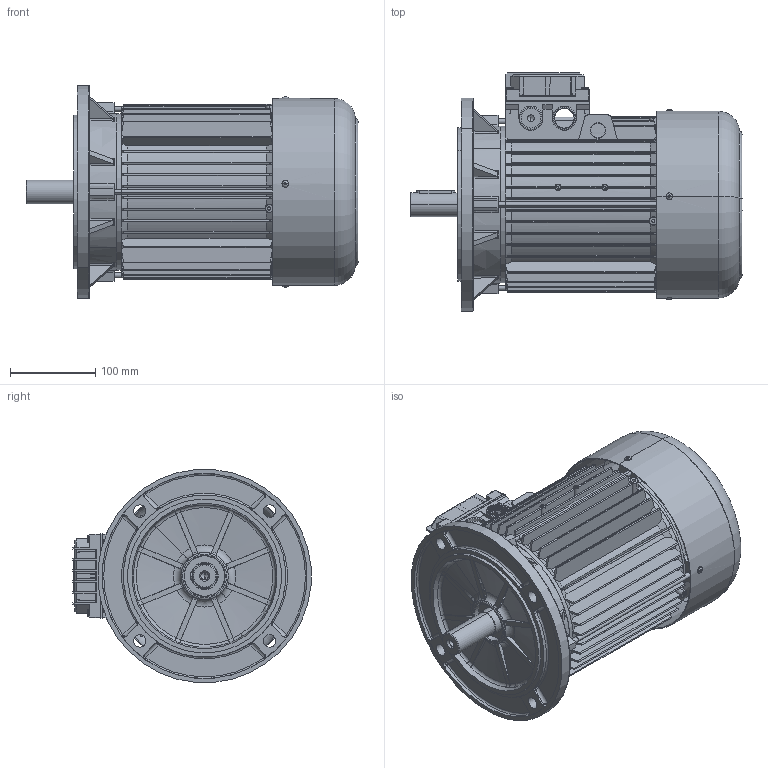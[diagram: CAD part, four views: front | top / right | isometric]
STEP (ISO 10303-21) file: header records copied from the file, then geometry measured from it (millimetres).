
FILE_DESCRIPTION (( 'STEP AP214' ), '1' );
FILE_NAME ('M24HB0010.STEP', '2018-12-27T10:02:52', ( '' ), ( '' ), 'SwSTEP 2.0', 'SolidWorks 2018', '' );
FILE_SCHEMA (( 'AUTOMOTIVE_DESIGN' ));
Length unit declared in the file: millimetre
Products named in the file (13): Albero SM 112; Scudo Lato Comando B3 BA-BM 112 - DFAD0194; Scudo a flangia B5 Fi 250 BA-BM 112; Carcassa 112 B5; M24HB0010; Cuffia SM 112; Coperchio per Scatola Singola 90 - 100 - 112 con viti; Guarnizione Coperchio Semplice Scatola BA 90 100 112 - DDAL0094; Vite per coperchio morsettiera; Coperchio per Scatola Singola 90 - 100 - 112; Vite testa rotonda M3; Tirante SM 112; Chiavetta 100-112
Assembly tree (21 placements, depth 3):
  M24HB0010
    Carcassa 112 B5
    Scudo a flangia B5 Fi 250 BA-BM 112
    Scudo Lato Comando B3 BA-BM 112 - DFAD0194
    Albero SM 112
    Chiavetta 100-112
    Tirante SM 112  x4
    Vite testa rotonda M3  x4
    Coperchio per Scatola Singola 90 - 100 - 112 con viti
      Coperchio per Scatola Singola 90 - 100 - 112
      Vite per coperchio morsettiera  x4
      Guarnizione Coperchio Semplice Scatola BA 90 100 112 - DDAL0094
    Cuffia SM 112
Bounding box: 388.48 x 278.52 x 249.05 mm (x, y, z)
Volume: 2018747 mm3; surface area: 1069505.1 mm2
Topology: 24 solids, 24 shells, 3573 faces, 9570 edges, 6078 vertices
Faces by surface type: plane 1476, cylinder 859, bspline 519, torus 366, cone 345, sphere 8
Entity records: 127938 total; most frequent: CARTESIAN_POINT 51941, ORIENTED_EDGE 17082, DIRECTION 13236, EDGE_CURVE 8541, VERTEX_POINT 5472, AXIS2_PLACEMENT_3D 4739, VECTOR 3758, LINE 3758
